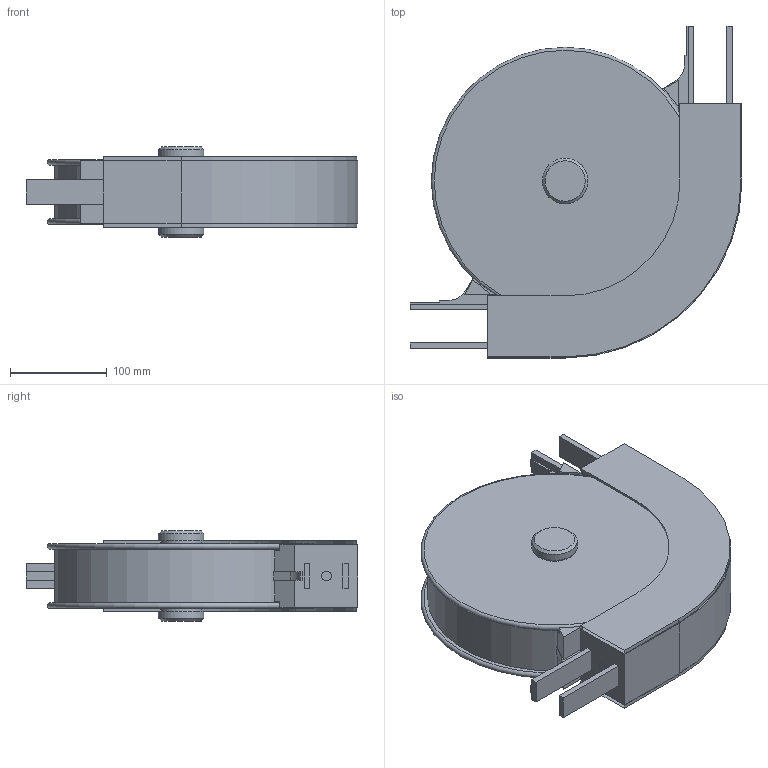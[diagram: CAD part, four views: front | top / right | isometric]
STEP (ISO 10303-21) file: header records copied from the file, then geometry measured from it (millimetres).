
FILE_DESCRIPTION(/* description */ ('Bogenrad 90°'),/* implementation_level */ '2;1');
FILE_NAME(/* name */ 'T:\vdz0\Step Daten Website\modulflex FL-System\Bogenräder\FLBH 90R150 A_43658.stp',/* time_stamp */ '2024-09-03T09:19:59+02:00',/* author */ ('lzb0'),/* organization */ ('modular automation GmbH'),/* preprocessor_version */ 'ST-DEVELOPER v18.1',/* originating_system */ 'Autodesk Inventor 2021',/* authorisation */ '');
FILE_SCHEMA (('AUTOMOTIVE_DESIGN { 1 0 10303 214 3 1 1 }'));
Length unit declared in the file: millimetre
Products named in the file (1): FLBH 90R150 A
Bounding box: 342.5 x 342.5 x 93 mm (x, y, z)
Volume: 5511100.4 mm3; surface area: 463591 mm2
Topology: 8 solids, 12 shells, 123 faces, 289 edges, 192 vertices
Faces by surface type: plane 104, cylinder 15, cone 2, torus 2
Full cylindrical faces by diameter (mm): 10 x2, 42 x2, 47 x2, 262 x1
Entity records: 3581 total; most frequent: CARTESIAN_POINT 612, DIRECTION 577, ORIENTED_EDGE 558, EDGE_CURVE 289, LINE 251, VECTOR 251, VERTEX_POINT 192, AXIS2_PLACEMENT_3D 163
